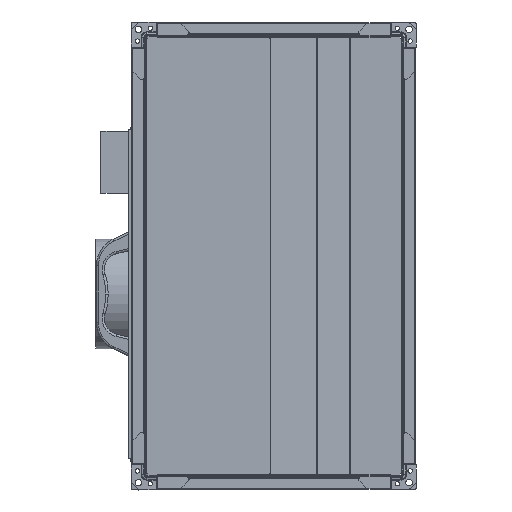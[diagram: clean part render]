
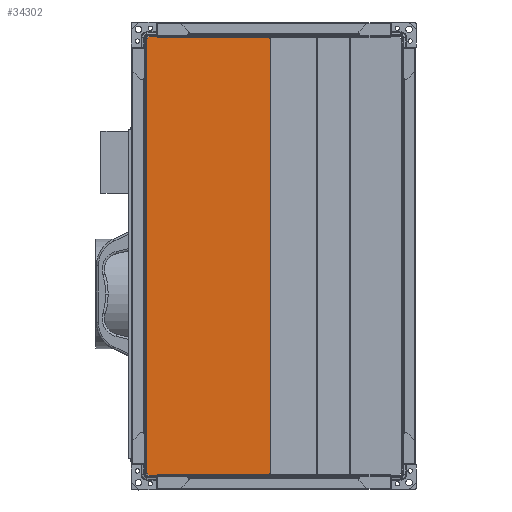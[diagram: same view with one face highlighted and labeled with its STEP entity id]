
A CAD part, left-side view. The second image highlights one B-rep face of the part: STEP entity #34302.
In plain terms, the highlighted planar face has unit normal (-1, 0, 0).
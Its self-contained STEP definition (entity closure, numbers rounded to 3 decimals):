
#3829=FACE_OUTER_BOUND('',#5677,.T.);
#5677=EDGE_LOOP('',(#29750,#29751,#29752,#29753,#29754,#29755,#29756,#29757,
#29758,#29759,#29760,#29761));
#9247=LINE('',#60981,#12297);
#9256=LINE('',#61001,#12306);
#9281=LINE('',#61054,#12331);
#9285=LINE('',#61063,#12335);
#9288=LINE('',#61067,#12338);
#9328=LINE('',#61149,#12378);
#9329=LINE('',#61151,#12379);
#9330=LINE('',#61153,#12380);
#9331=LINE('',#61154,#12381);
#9332=LINE('',#61155,#12382);
#9333=LINE('',#61157,#12383);
#9334=LINE('',#61158,#12384);
#12297=VECTOR('',#44220,10.);
#12306=VECTOR('',#44233,10.);
#12331=VECTOR('',#44270,10.);
#12335=VECTOR('',#44276,10.);
#12338=VECTOR('',#44281,10.);
#12378=VECTOR('',#44343,10.);
#12379=VECTOR('',#44344,10.);
#12380=VECTOR('',#44345,10.);
#12381=VECTOR('',#44346,10.);
#12382=VECTOR('',#44347,10.);
#12383=VECTOR('',#44348,10.);
#12384=VECTOR('',#44349,10.);
#15569=VERTEX_POINT('',#60978);
#15570=VERTEX_POINT('',#60980);
#15578=VERTEX_POINT('',#60999);
#15579=VERTEX_POINT('',#61000);
#15600=VERTEX_POINT('',#61051);
#15601=VERTEX_POINT('',#61053);
#15604=VERTEX_POINT('',#61060);
#15605=VERTEX_POINT('',#61062);
#15636=VERTEX_POINT('',#61148);
#15637=VERTEX_POINT('',#61150);
#15638=VERTEX_POINT('',#61152);
#15639=VERTEX_POINT('',#61156);
#20325=EDGE_CURVE('',#15569,#15570,#9247,.T.);
#20334=EDGE_CURVE('',#15578,#15579,#9256,.T.);
#20359=EDGE_CURVE('',#15601,#15600,#9281,.T.);
#20363=EDGE_CURVE('',#15604,#15605,#9285,.T.);
#20366=EDGE_CURVE('',#15569,#15605,#9288,.T.);
#20406=EDGE_CURVE('',#15636,#15600,#9328,.T.);
#20407=EDGE_CURVE('',#15637,#15636,#9329,.T.);
#20408=EDGE_CURVE('',#15638,#15637,#9330,.T.);
#20409=EDGE_CURVE('',#15570,#15638,#9331,.T.);
#20410=EDGE_CURVE('',#15579,#15604,#9332,.T.);
#20411=EDGE_CURVE('',#15639,#15578,#9333,.T.);
#20412=EDGE_CURVE('',#15601,#15639,#9334,.T.);
#29750=ORIENTED_EDGE('',*,*,#20359,.T.);
#29751=ORIENTED_EDGE('',*,*,#20406,.F.);
#29752=ORIENTED_EDGE('',*,*,#20407,.F.);
#29753=ORIENTED_EDGE('',*,*,#20408,.F.);
#29754=ORIENTED_EDGE('',*,*,#20409,.F.);
#29755=ORIENTED_EDGE('',*,*,#20325,.F.);
#29756=ORIENTED_EDGE('',*,*,#20366,.T.);
#29757=ORIENTED_EDGE('',*,*,#20363,.F.);
#29758=ORIENTED_EDGE('',*,*,#20410,.F.);
#29759=ORIENTED_EDGE('',*,*,#20334,.F.);
#29760=ORIENTED_EDGE('',*,*,#20411,.F.);
#29761=ORIENTED_EDGE('',*,*,#20412,.F.);
#31357=PLANE('',#36755);
#34302=ADVANCED_FACE('',(#3829),#31357,.F.);
#36755=AXIS2_PLACEMENT_3D('',#61147,#44341,#44342);
#44220=DIRECTION('',(0.,-1.,0.));
#44233=DIRECTION('',(0.,-1.,0.));
#44270=DIRECTION('',(0.,0.,-1.));
#44276=DIRECTION('',(0.,-1.,0.));
#44281=DIRECTION('',(0.,0.,1.));
#44341=DIRECTION('center_axis',(1.,0.,0.));
#44342=DIRECTION('ref_axis',(0.,-1.,0.));
#44343=DIRECTION('',(0.,1.,0.));
#44344=DIRECTION('',(0.,0.,-1.));
#44345=DIRECTION('',(0.,1.,0.));
#44346=DIRECTION('',(0.,0.,-1.));
#44347=DIRECTION('',(0.,0.,1.));
#44348=DIRECTION('',(0.,0.,1.));
#44349=DIRECTION('',(0.,1.,0.));
#60978=CARTESIAN_POINT('',(14.935,-182.912,581.5));
#60980=CARTESIAN_POINT('',(14.935,-183.74,581.5));
#60981=CARTESIAN_POINT('',(14.935,-141.609,581.5));
#60999=CARTESIAN_POINT('',(14.935,-13.74,581.5));
#61000=CARTESIAN_POINT('',(14.935,-15.74,581.5));
#61001=CARTESIAN_POINT('',(14.935,-14.764,581.5));
#61051=CARTESIAN_POINT('',(14.935,-15.74,-15.5));
#61053=CARTESIAN_POINT('',(14.935,-15.74,-13.5));
#61054=CARTESIAN_POINT('',(14.935,-15.74,134.25));
#61060=CARTESIAN_POINT('',(14.935,-15.74,583.5));
#61062=CARTESIAN_POINT('',(14.935,-182.912,583.5));
#61063=CARTESIAN_POINT('',(14.935,-99.109,583.5));
#61067=CARTESIAN_POINT('',(14.935,-182.912,433.75));
#61147=CARTESIAN_POINT('Origin',(14.935,-98.892,284.));
#61148=CARTESIAN_POINT('',(14.935,-182.912,-15.5));
#61149=CARTESIAN_POINT('',(14.935,-99.109,-15.5));
#61150=CARTESIAN_POINT('',(14.935,-182.912,-13.5));
#61151=CARTESIAN_POINT('',(14.935,-182.912,134.75));
#61152=CARTESIAN_POINT('',(14.935,-183.74,-13.5));
#61153=CARTESIAN_POINT('',(14.935,-173.196,-13.5));
#61154=CARTESIAN_POINT('',(14.935,-183.74,284.));
#61155=CARTESIAN_POINT('',(14.935,-15.74,433.25));
#61156=CARTESIAN_POINT('',(14.935,-13.74,-13.5));
#61157=CARTESIAN_POINT('',(14.935,-13.74,432.75));
#61158=CARTESIAN_POINT('',(14.935,-14.764,-13.5));
